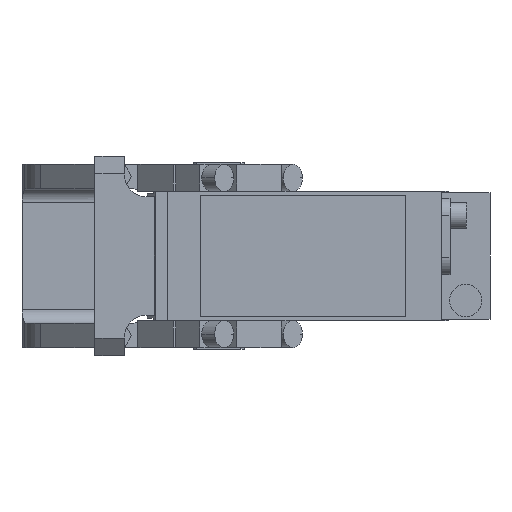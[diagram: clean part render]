
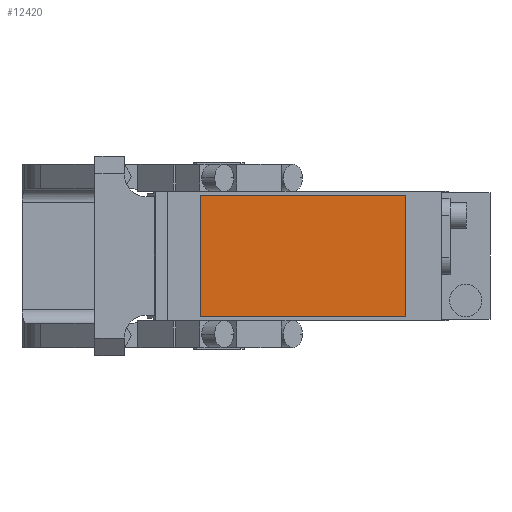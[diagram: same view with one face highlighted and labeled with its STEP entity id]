
A CAD part, front view. The second image highlights one B-rep face of the part: STEP entity #12420.
In plain terms, the highlighted planar face has unit normal (0, -1, 0).
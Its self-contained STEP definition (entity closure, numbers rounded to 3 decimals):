
#373 = DIRECTION ( 'NONE',  ( 0., 0., 1. ) ) ;
#635 = CARTESIAN_POINT ( 'NONE',  ( -7., -280.5, 22.5 ) ) ;
#638 = CARTESIAN_POINT ( 'NONE',  ( -7., -280.5, 22.5 ) ) ;
#1520 = CARTESIAN_POINT ( 'NONE',  ( 69., -280.5, 22.5 ) ) ;
#1906 = CARTESIAN_POINT ( 'NONE',  ( 69., -280.5, -22.5 ) ) ;
#1943 = VECTOR ( 'NONE', #373, 1000. ) ;
#2845 = LINE ( 'NONE', #5225, #3132 ) ;
#3038 = ORIENTED_EDGE ( 'NONE', *, *, #6149, .T. ) ;
#3132 = VECTOR ( 'NONE', #11004, 1000. ) ;
#3604 = EDGE_CURVE ( 'NONE', #9209, #4047, #6175, .T. ) ;
#3836 = DIRECTION ( 'NONE',  ( 0., 0., -1. ) ) ;
#4047 = VERTEX_POINT ( 'NONE', #11576 ) ;
#4473 = ORIENTED_EDGE ( 'NONE', *, *, #9838, .T. ) ;
#4929 = CARTESIAN_POINT ( 'NONE',  ( -7., -280.5, -22.5 ) ) ;
#5225 = CARTESIAN_POINT ( 'NONE',  ( -7., -280.5, 22.5 ) ) ;
#5965 = EDGE_CURVE ( 'NONE', #12057, #9209, #10775, .T. ) ;
#6149 = EDGE_CURVE ( 'NONE', #4047, #8958, #2845, .T. ) ;
#6175 = LINE ( 'NONE', #1520, #1943 ) ;
#6966 = FACE_OUTER_BOUND ( 'NONE', #7445, .T. ) ;
#7445 = EDGE_LOOP ( 'NONE', ( #4473, #12548, #8516, #3038 ) ) ;
#8516 = ORIENTED_EDGE ( 'NONE', *, *, #3604, .T. ) ;
#8906 = CARTESIAN_POINT ( 'NONE',  ( 0., -280.5, 0. ) ) ;
#8958 = VERTEX_POINT ( 'NONE', #635 ) ;
#9209 = VERTEX_POINT ( 'NONE', #1906 ) ;
#9838 = EDGE_CURVE ( 'NONE', #8958, #12057, #14412, .T. ) ;
#10422 = DIRECTION ( 'NONE',  ( 0., -1., 0. ) ) ;
#10481 = VECTOR ( 'NONE', #10629, 1000. ) ;
#10629 = DIRECTION ( 'NONE',  ( 1., 0., 0. ) ) ;
#10775 = LINE ( 'NONE', #4929, #10481 ) ;
#10829 = VECTOR ( 'NONE', #3836, 1000. ) ;
#11004 = DIRECTION ( 'NONE',  ( -1., 0., 0. ) ) ;
#11493 = DIRECTION ( 'NONE',  ( 0., 0., -1. ) ) ;
#11518 = AXIS2_PLACEMENT_3D ( 'NONE', #8906, #10422, #11493 ) ;
#11576 = CARTESIAN_POINT ( 'NONE',  ( 69., -280.5, 22.5 ) ) ;
#12057 = VERTEX_POINT ( 'NONE', #14894 ) ;
#12420 = ADVANCED_FACE ( 'NONE', ( #6966 ), #14706, .T. ) ;
#12548 = ORIENTED_EDGE ( 'NONE', *, *, #5965, .T. ) ;
#14412 = LINE ( 'NONE', #638, #10829 ) ;
#14706 = PLANE ( 'NONE',  #11518 ) ;
#14894 = CARTESIAN_POINT ( 'NONE',  ( -7., -280.5, -22.5 ) ) ;
